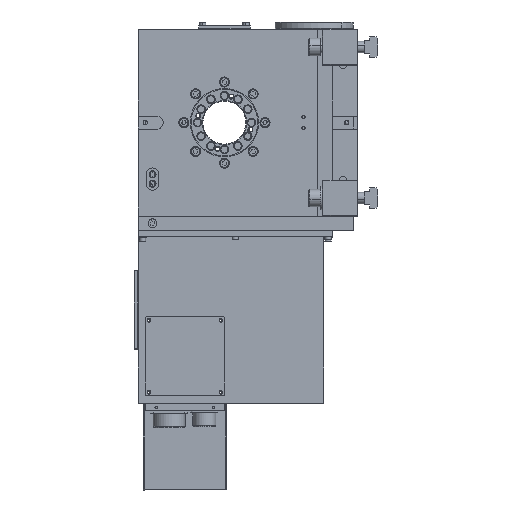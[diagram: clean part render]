
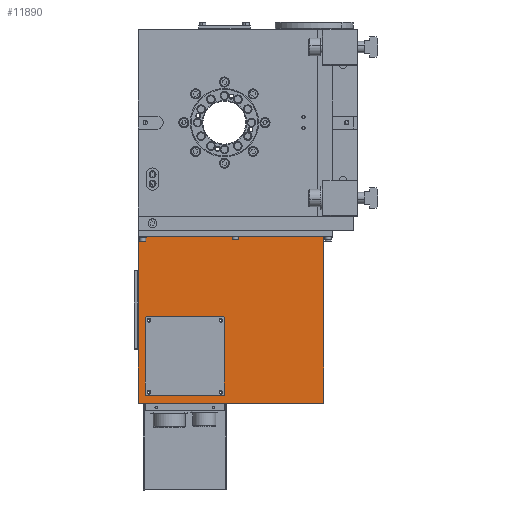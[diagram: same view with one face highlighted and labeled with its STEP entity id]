
A CAD part, left-side view. The second image highlights one B-rep face of the part: STEP entity #11890.
In plain terms, the highlighted planar face has unit normal (-1, 0, 0).
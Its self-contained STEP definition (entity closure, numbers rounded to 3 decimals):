
#574 = AXIS2_PLACEMENT_3D ( 'NONE', #9221, #39453, #19523 ) ;
#659 = VERTEX_POINT ( 'NONE', #7894 ) ;
#859 = DIRECTION ( 'NONE',  ( 0., -1., 0. ) ) ;
#994 = AXIS2_PLACEMENT_3D ( 'NONE', #28262, #21335, #34540 ) ;
#1229 = CARTESIAN_POINT ( 'NONE',  ( 17., 5., -275. ) ) ;
#1469 = VECTOR ( 'NONE', #13499, 1000. ) ;
#1567 = ORIENTED_EDGE ( 'NONE', *, *, #12112, .T. ) ;
#2290 = ORIENTED_EDGE ( 'NONE', *, *, #31781, .T. ) ;
#2498 = VERTEX_POINT ( 'NONE', #39967 ) ;
#2762 = CIRCLE ( 'NONE', #32765, 1.65 ) ;
#2937 = VERTEX_POINT ( 'NONE', #27813 ) ;
#3679 = ORIENTED_EDGE ( 'NONE', *, *, #29904, .T. ) ;
#3985 = CARTESIAN_POINT ( 'NONE',  ( 17., -138., -390. ) ) ;
#4377 = DIRECTION ( 'NONE',  ( 1., 0., 0. ) ) ;
#4843 = CARTESIAN_POINT ( 'NONE',  ( 17., 106.65, -375. ) ) ;
#5246 = EDGE_CURVE ( 'NONE', #10195, #40386, #18850, .T. ) ;
#5893 = DIRECTION ( 'NONE',  ( 1., 0., 0. ) ) ;
#5987 = EDGE_CURVE ( 'NONE', #16055, #13900, #23289, .T. ) ;
#6142 = VERTEX_POINT ( 'NONE', #18333 ) ;
#6344 = CARTESIAN_POINT ( 'NONE',  ( 17., 106.65, -275. ) ) ;
#6796 = CARTESIAN_POINT ( 'NONE',  ( 17., 105., -275. ) ) ;
#6804 = VERTEX_POINT ( 'NONE', #23132 ) ;
#7002 = LINE ( 'NONE', #20666, #34930 ) ;
#7732 = CARTESIAN_POINT ( 'NONE',  ( 17., 103.35, -375. ) ) ;
#7772 = VECTOR ( 'NONE', #30161, 1000. ) ;
#7787 = CARTESIAN_POINT ( 'NONE',  ( 17., 120., -280. ) ) ;
#7858 = CIRCLE ( 'NONE', #28577, 1.65 ) ;
#7894 = CARTESIAN_POINT ( 'NONE',  ( 17., 6.65, -375. ) ) ;
#8605 = ORIENTED_EDGE ( 'NONE', *, *, #15231, .T. ) ;
#9221 = CARTESIAN_POINT ( 'NONE',  ( 17., 105., -275. ) ) ;
#9421 = DIRECTION ( 'NONE',  ( 0., 1., 0. ) ) ;
#9464 = FACE_BOUND ( 'NONE', #41380, .T. ) ;
#10089 = CARTESIAN_POINT ( 'NONE',  ( 17., -138., -390. ) ) ;
#10195 = VERTEX_POINT ( 'NONE', #4843 ) ;
#10572 = AXIS2_PLACEMENT_3D ( 'NONE', #30062, #5893, #26265 ) ;
#11820 = DIRECTION ( 'NONE',  ( 1., 0., 0. ) ) ;
#11890 = ADVANCED_FACE ( 'NONE', ( #22465, #9464, #16405, #33644, #19102, #40358 ), #29842, .F. ) ;
#11897 = VECTOR ( 'NONE', #28955, 1000. ) ;
#11971 = CARTESIAN_POINT ( 'NONE',  ( 17., 103.35, -275. ) ) ;
#12112 = EDGE_CURVE ( 'NONE', #22281, #18859, #7002, .T. ) ;
#12179 = DIRECTION ( 'NONE',  ( 0., 1., 0. ) ) ;
#12340 = CARTESIAN_POINT ( 'NONE',  ( 17., 105., -375. ) ) ;
#12484 = EDGE_LOOP ( 'NONE', ( #2290, #8605 ) ) ;
#12793 = ORIENTED_EDGE ( 'NONE', *, *, #39190, .T. ) ;
#12859 = DIRECTION ( 'NONE',  ( 1., 0., 0. ) ) ;
#13062 = EDGE_CURVE ( 'NONE', #6142, #36564, #19965, .T. ) ;
#13499 = DIRECTION ( 'NONE',  ( 0., 0., 1. ) ) ;
#13900 = VERTEX_POINT ( 'NONE', #36340 ) ;
#13932 = CARTESIAN_POINT ( 'NONE',  ( 17., 5., -375. ) ) ;
#14628 = CARTESIAN_POINT ( 'NONE',  ( 17., 100., -387.7 ) ) ;
#14875 = DIRECTION ( 'NONE',  ( 1., 0., 0. ) ) ;
#15067 = EDGE_CURVE ( 'NONE', #2937, #25876, #16406, .T. ) ;
#15079 = EDGE_LOOP ( 'NONE', ( #12793, #33065, #22679, #22167 ) ) ;
#15176 = CARTESIAN_POINT ( 'NONE',  ( 17., 5., -375. ) ) ;
#15231 = EDGE_CURVE ( 'NONE', #2498, #659, #20066, .T. ) ;
#15291 = LINE ( 'NONE', #14628, #11897 ) ;
#15300 = DIRECTION ( 'NONE',  ( 0., 1., 0. ) ) ;
#15698 = VECTOR ( 'NONE', #9421, 1000. ) ;
#15753 = LINE ( 'NONE', #41960, #16771 ) ;
#15998 = ORIENTED_EDGE ( 'NONE', *, *, #13062, .T. ) ;
#16055 = VERTEX_POINT ( 'NONE', #3985 ) ;
#16405 = FACE_BOUND ( 'NONE', #23867, .T. ) ;
#16406 = LINE ( 'NONE', #29844, #1469 ) ;
#16505 = CARTESIAN_POINT ( 'NONE',  ( 17., 120., -370. ) ) ;
#16745 = EDGE_CURVE ( 'NONE', #16055, #2937, #26879, .T. ) ;
#16771 = VECTOR ( 'NONE', #15300, 1000. ) ;
#17029 = CARTESIAN_POINT ( 'NONE',  ( 17., 120., -159. ) ) ;
#17730 = CARTESIAN_POINT ( 'NONE',  ( 17., 6.65, -275. ) ) ;
#17957 = DIRECTION ( 'NONE',  ( 1., 0., 0. ) ) ;
#18333 = CARTESIAN_POINT ( 'NONE',  ( 17., 3.35, -275. ) ) ;
#18850 = CIRCLE ( 'NONE', #994, 1.65 ) ;
#18859 = VERTEX_POINT ( 'NONE', #26461 ) ;
#19102 = FACE_BOUND ( 'NONE', #38948, .T. ) ;
#19523 = DIRECTION ( 'NONE',  ( 0., 1., 0. ) ) ;
#19548 = DIRECTION ( 'NONE',  ( 0., 1., 0. ) ) ;
#19861 = LINE ( 'NONE', #16505, #7772 ) ;
#19862 = ORIENTED_EDGE ( 'NONE', *, *, #39295, .T. ) ;
#19965 = CIRCLE ( 'NONE', #43535, 1.65 ) ;
#20066 = CIRCLE ( 'NONE', #22908, 1.65 ) ;
#20177 = AXIS2_PLACEMENT_3D ( 'NONE', #6796, #12859, #30761 ) ;
#20666 = CARTESIAN_POINT ( 'NONE',  ( 17., 10., -387.7 ) ) ;
#21107 = DIRECTION ( 'NONE',  ( 0., 1., 0. ) ) ;
#21335 = DIRECTION ( 'NONE',  ( 1., 0., 0. ) ) ;
#21763 = VECTOR ( 'NONE', #23076, 1000. ) ;
#22167 = ORIENTED_EDGE ( 'NONE', *, *, #5987, .T. ) ;
#22281 = VERTEX_POINT ( 'NONE', #27937 ) ;
#22365 = CARTESIAN_POINT ( 'NONE',  ( 17., 100., -280. ) ) ;
#22465 = FACE_BOUND ( 'NONE', #28197, .T. ) ;
#22679 = ORIENTED_EDGE ( 'NONE', *, *, #16745, .F. ) ;
#22908 = AXIS2_PLACEMENT_3D ( 'NONE', #13932, #17957, #21107 ) ;
#23076 = DIRECTION ( 'NONE',  ( 0., 0., 1. ) ) ;
#23132 = CARTESIAN_POINT ( 'NONE',  ( 17., 100., -370. ) ) ;
#23289 = LINE ( 'NONE', #39631, #21763 ) ;
#23572 = DIRECTION ( 'NONE',  ( 1., 0., 0. ) ) ;
#23867 = EDGE_LOOP ( 'NONE', ( #19862, #15998 ) ) ;
#25876 = VERTEX_POINT ( 'NONE', #17029 ) ;
#26265 = DIRECTION ( 'NONE',  ( 0., 1., 0. ) ) ;
#26461 = CARTESIAN_POINT ( 'NONE',  ( 17., 10., -370. ) ) ;
#26879 = LINE ( 'NONE', #10089, #15698 ) ;
#27168 = VERTEX_POINT ( 'NONE', #22365 ) ;
#27416 = ORIENTED_EDGE ( 'NONE', *, *, #37803, .T. ) ;
#27813 = CARTESIAN_POINT ( 'NONE',  ( 17., 120., -390. ) ) ;
#27937 = CARTESIAN_POINT ( 'NONE',  ( 17., 10., -280. ) ) ;
#27942 = EDGE_CURVE ( 'NONE', #40386, #10195, #7858, .T. ) ;
#28197 = EDGE_LOOP ( 'NONE', ( #3679, #34621 ) ) ;
#28262 = CARTESIAN_POINT ( 'NONE',  ( 17., 105., -375. ) ) ;
#28577 = AXIS2_PLACEMENT_3D ( 'NONE', #12340, #4377, #35866 ) ;
#28955 = DIRECTION ( 'NONE',  ( 0., 0., 1. ) ) ;
#29260 = EDGE_CURVE ( 'NONE', #27168, #22281, #42030, .T. ) ;
#29842 = PLANE ( 'NONE',  #10572 ) ;
#29844 = CARTESIAN_POINT ( 'NONE',  ( 17., 120., -387.7 ) ) ;
#29855 = CIRCLE ( 'NONE', #574, 1.65 ) ;
#29904 = EDGE_CURVE ( 'NONE', #39342, #41712, #29855, .T. ) ;
#30062 = CARTESIAN_POINT ( 'NONE',  ( 17., 120., -387.7 ) ) ;
#30161 = DIRECTION ( 'NONE',  ( 0., 1., 0. ) ) ;
#30180 = CIRCLE ( 'NONE', #20177, 1.65 ) ;
#30761 = DIRECTION ( 'NONE',  ( 0., 1., 0. ) ) ;
#31213 = ORIENTED_EDGE ( 'NONE', *, *, #5246, .T. ) ;
#31781 = EDGE_CURVE ( 'NONE', #659, #2498, #2762, .T. ) ;
#31784 = AXIS2_PLACEMENT_3D ( 'NONE', #37239, #23572, #19548 ) ;
#32061 = EDGE_CURVE ( 'NONE', #18859, #6804, #19861, .T. ) ;
#32765 = AXIS2_PLACEMENT_3D ( 'NONE', #15176, #11820, #38701 ) ;
#33065 = ORIENTED_EDGE ( 'NONE', *, *, #15067, .F. ) ;
#33214 = EDGE_CURVE ( 'NONE', #41712, #39342, #30180, .T. ) ;
#33559 = ORIENTED_EDGE ( 'NONE', *, *, #32061, .T. ) ;
#33644 = FACE_BOUND ( 'NONE', #12484, .T. ) ;
#34317 = DIRECTION ( 'NONE',  ( 0., 0., -1. ) ) ;
#34540 = DIRECTION ( 'NONE',  ( 0., 1., 0. ) ) ;
#34621 = ORIENTED_EDGE ( 'NONE', *, *, #33214, .T. ) ;
#34930 = VECTOR ( 'NONE', #34317, 1000. ) ;
#35866 = DIRECTION ( 'NONE',  ( 0., 1., 0. ) ) ;
#36340 = CARTESIAN_POINT ( 'NONE',  ( 17., -138., -159. ) ) ;
#36564 = VERTEX_POINT ( 'NONE', #17730 ) ;
#37239 = CARTESIAN_POINT ( 'NONE',  ( 17., 5., -275. ) ) ;
#37803 = EDGE_CURVE ( 'NONE', #6804, #27168, #15291, .T. ) ;
#38701 = DIRECTION ( 'NONE',  ( 0., 1., 0. ) ) ;
#38948 = EDGE_LOOP ( 'NONE', ( #27416, #44160, #1567, #33559 ) ) ;
#39190 = EDGE_CURVE ( 'NONE', #13900, #25876, #15753, .T. ) ;
#39295 = EDGE_CURVE ( 'NONE', #36564, #6142, #39644, .T. ) ;
#39342 = VERTEX_POINT ( 'NONE', #6344 ) ;
#39453 = DIRECTION ( 'NONE',  ( 1., 0., 0. ) ) ;
#39631 = CARTESIAN_POINT ( 'NONE',  ( 17., -138., -387.7 ) ) ;
#39644 = CIRCLE ( 'NONE', #31784, 1.65 ) ;
#39794 = VECTOR ( 'NONE', #859, 1000. ) ;
#39967 = CARTESIAN_POINT ( 'NONE',  ( 17., 3.35, -375. ) ) ;
#40358 = FACE_OUTER_BOUND ( 'NONE', #15079, .T. ) ;
#40386 = VERTEX_POINT ( 'NONE', #7732 ) ;
#41380 = EDGE_LOOP ( 'NONE', ( #31213, #42154 ) ) ;
#41712 = VERTEX_POINT ( 'NONE', #11971 ) ;
#41960 = CARTESIAN_POINT ( 'NONE',  ( 17., 120., -159. ) ) ;
#42030 = LINE ( 'NONE', #7787, #39794 ) ;
#42154 = ORIENTED_EDGE ( 'NONE', *, *, #27942, .T. ) ;
#43535 = AXIS2_PLACEMENT_3D ( 'NONE', #1229, #14875, #12179 ) ;
#44160 = ORIENTED_EDGE ( 'NONE', *, *, #29260, .T. ) ;
